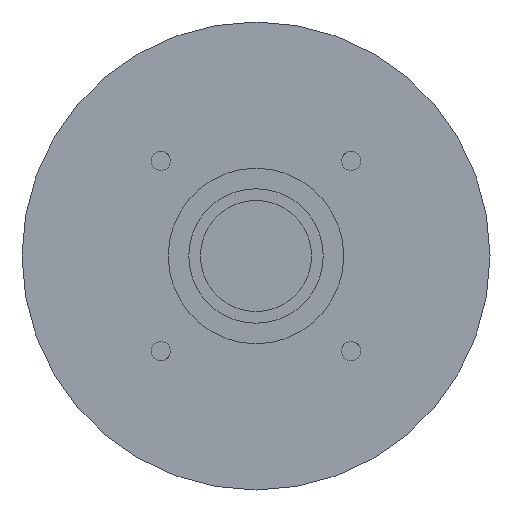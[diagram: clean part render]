
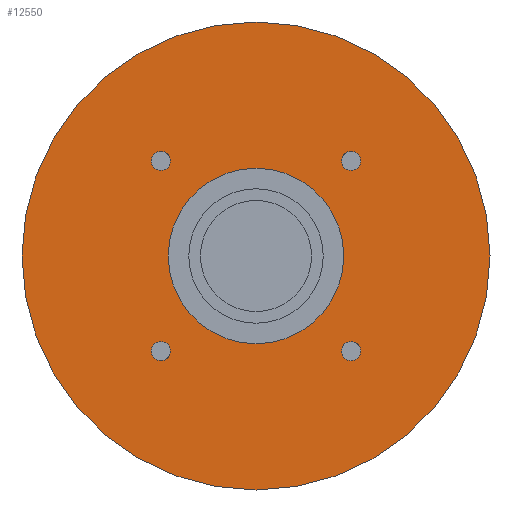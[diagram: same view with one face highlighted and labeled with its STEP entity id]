
A CAD part, left-side view. The second image highlights one B-rep face of the part: STEP entity #12550.
In plain terms, the highlighted planar face has unit normal (-1, 0, 0) as drawn and (0, 0, -1) by its records, which use the part's own axes.
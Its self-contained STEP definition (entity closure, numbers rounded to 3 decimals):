
#8680=CARTESIAN_POINT('',(-14.613,-16.263,-42.2));
#8690=VERTEX_POINT('',#8680);
#8740=CARTESIAN_POINT('',(-16.263,-16.263,-42.2));
#8750=DIRECTION('',(0.,0.,-1.));
#8760=DIRECTION('',(1.,0.,0.));
#8770=AXIS2_PLACEMENT_3D('',#8740,#8750,#8760);
#8780=CIRCLE('',#8770,1.65);
#8790=CARTESIAN_POINT('',(-17.913,-16.263,-42.2));
#8800=VERTEX_POINT('',#8790);
#8810=EDGE_CURVE('',#8800,#8690,#8780,.T.);
#9140=CARTESIAN_POINT('',(14.613,-16.263,-42.2));
#9150=VERTEX_POINT('',#9140);
#9180=CARTESIAN_POINT('',(16.263,-16.263,-42.2));
#9190=DIRECTION('',(0.,0.,-1.));
#9200=DIRECTION('',(1.,0.,0.));
#9210=AXIS2_PLACEMENT_3D('',#9180,#9190,#9200);
#9220=CIRCLE('',#9210,1.65);
#9230=CARTESIAN_POINT('',(17.913,-16.263,-42.2));
#9240=VERTEX_POINT('',#9230);
#9250=EDGE_CURVE('',#9240,#9150,#9220,.T.);
#11670=CARTESIAN_POINT('',(-40.,0.,-42.2));
#11680=VERTEX_POINT('',#11670);
#11760=CARTESIAN_POINT('',(40.,0.,-42.2));
#11770=VERTEX_POINT('',#11760);
#11800=CARTESIAN_POINT('',(0.,0.,
-42.2));
#11810=DIRECTION('',(0.,0.,1.));
#11820=DIRECTION('',(1.,0.,0.));
#11830=AXIS2_PLACEMENT_3D('',#11800,#11810,#11820);
#11840=CIRCLE('',#11830,40.);
#11850=EDGE_CURVE('',#11680,#11770,#11840,.T.);
#11900=CARTESIAN_POINT('',(0.,0.,
-42.2));
#11910=DIRECTION('',(0.,0.,-1.));
#11920=DIRECTION('',(1.,0.,0.));
#11930=AXIS2_PLACEMENT_3D('',#11900,#11910,#11920);
#11940=PLANE('',#11930);
#11950=CARTESIAN_POINT('',(-16.263,16.263,-42.2));
#11960=DIRECTION('',(0.,0.,-1.));
#11970=DIRECTION('',(1.,0.,0.));
#11980=AXIS2_PLACEMENT_3D('',#11950,#11960,#11970);
#11990=CIRCLE('',#11980,1.65);
#12000=CARTESIAN_POINT('',(-14.613,16.263,-42.2));
#12010=VERTEX_POINT('',#12000);
#12020=CARTESIAN_POINT('',(-17.913,16.263,-42.2));
#12030=VERTEX_POINT('',#12020);
#12040=EDGE_CURVE('',#12010,#12030,#11990,.T.);
#12050=ORIENTED_EDGE('',*,*,#12040,.F.);
#12060=EDGE_CURVE('',#12030,#12010,#11990,.T.);
#12070=ORIENTED_EDGE('',*,*,#12060,.F.);
#12080=EDGE_LOOP('',(#12070,#12050));
#12090=FACE_BOUND('',#12080,.T.);
#12100=CARTESIAN_POINT('',(0.,0.,
-42.2));
#12110=DIRECTION('',(0.,0.,1.));
#12120=DIRECTION('',(1.,0.,0.));
#12130=AXIS2_PLACEMENT_3D('',#12100,#12110,#12120);
#12140=CIRCLE('',#12130,15.);
#12150=CARTESIAN_POINT('',(15.,0.,-42.2));
#12160=VERTEX_POINT('',#12150);
#12170=CARTESIAN_POINT('',(-15.,0.,-42.2));
#12180=VERTEX_POINT('',#12170);
#12190=EDGE_CURVE('',#12160,#12180,#12140,.T.);
#12200=ORIENTED_EDGE('',*,*,#12190,.T.);
#12210=EDGE_CURVE('',#12180,#12160,#12140,.T.);
#12220=ORIENTED_EDGE('',*,*,#12210,.T.);
#12230=EDGE_LOOP('',(#12220,#12200));
#12240=FACE_BOUND('',#12230,.T.);
#12250=CARTESIAN_POINT('',(16.263,16.263,-42.2));
#12260=DIRECTION('',(0.,0.,-1.));
#12270=DIRECTION('',(1.,0.,0.));
#12280=AXIS2_PLACEMENT_3D('',#12250,#12260,#12270);
#12290=CIRCLE('',#12280,1.65);
#12300=CARTESIAN_POINT('',(17.913,16.263,-42.2));
#12310=VERTEX_POINT('',#12300);
#12320=CARTESIAN_POINT('',(14.613,16.263,-42.2));
#12330=VERTEX_POINT('',#12320);
#12340=EDGE_CURVE('',#12310,#12330,#12290,.T.);
#12350=ORIENTED_EDGE('',*,*,#12340,.F.);
#12360=EDGE_CURVE('',#12330,#12310,#12290,.T.);
#12370=ORIENTED_EDGE('',*,*,#12360,.F.);
#12380=EDGE_LOOP('',(#12370,#12350));
#12390=FACE_BOUND('',#12380,.T.);
#12400=ORIENTED_EDGE('',*,*,#9250,.F.);
#12410=EDGE_CURVE('',#9150,#9240,#9220,.T.);
#12420=ORIENTED_EDGE('',*,*,#12410,.F.);
#12430=EDGE_LOOP('',(#12420,#12400));
#12440=FACE_BOUND('',#12430,.T.);
#12450=EDGE_CURVE('',#8690,#8800,#8780,.T.);
#12460=ORIENTED_EDGE('',*,*,#12450,.F.);
#12470=ORIENTED_EDGE('',*,*,#8810,.F.);
#12480=EDGE_LOOP('',(#12470,#12460));
#12490=FACE_BOUND('',#12480,.T.);
#12500=EDGE_CURVE('',#11770,#11680,#11840,.T.);
#12510=ORIENTED_EDGE('',*,*,#12500,.F.);
#12520=ORIENTED_EDGE('',*,*,#11850,.F.);
#12530=EDGE_LOOP('',(#12520,#12510));
#12540=FACE_OUTER_BOUND('',#12530,.T.);
#12550=ADVANCED_FACE('',(#12090,#12240,#12390,#12440,#12490,#12540),
#11940,.T.);
